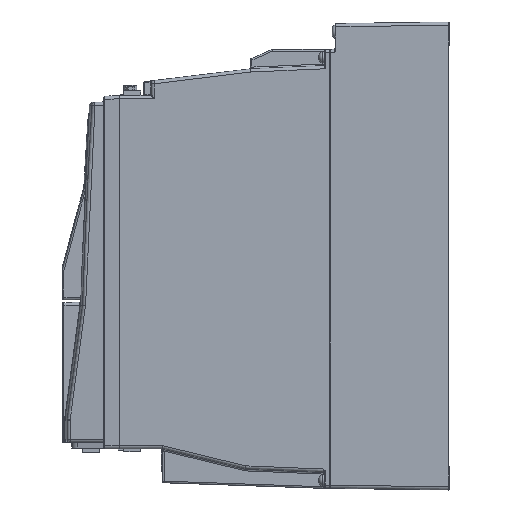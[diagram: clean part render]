
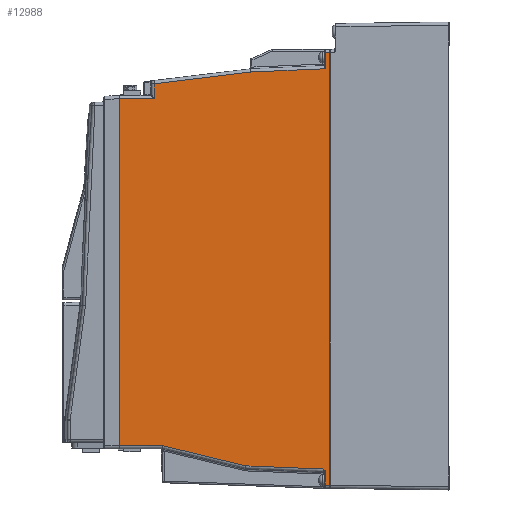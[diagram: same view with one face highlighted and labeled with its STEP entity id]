
A CAD part, left-side view. The second image highlights one B-rep face of the part: STEP entity #12988.
In plain terms, the highlighted planar face has unit normal (-1, 0, 0).
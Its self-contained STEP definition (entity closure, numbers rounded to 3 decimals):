
#5 = VERTEX_POINT ( 'NONE', #34344 ) ;
#339 = CARTESIAN_POINT ( 'NONE',  ( -64., 202.8, -47.5 ) ) ;
#374 = DIRECTION ( 'NONE',  ( 0., 0., -1. ) ) ;
#669 = VECTOR ( 'NONE', #45755, 1000. ) ;
#745 = EDGE_CURVE ( 'NONE', #26420, #10179, #37864, .T. ) ;
#768 = DIRECTION ( 'NONE',  ( 0., 0.999, -0.043 ) ) ;
#1155 = VECTOR ( 'NONE', #44109, 1000. ) ;
#1608 = VERTEX_POINT ( 'NONE', #4157 ) ;
#1969 = LINE ( 'NONE', #34237, #28337 ) ;
#2494 = ORIENTED_EDGE ( 'NONE', *, *, #3130, .T. ) ;
#2581 = CARTESIAN_POINT ( 'NONE',  ( -64., 76.535, -278.634 ) ) ;
#2699 = DIRECTION ( 'NONE',  ( 1., 0., 0. ) ) ;
#3080 = VERTEX_POINT ( 'NONE', #17436 ) ;
#3130 = EDGE_CURVE ( 'NONE', #18874, #16231, #4209, .T. ) ;
#3215 = ORIENTED_EDGE ( 'NONE', *, *, #45455, .T. ) ;
#3267 = VERTEX_POINT ( 'NONE', #38863 ) ;
#4157 = CARTESIAN_POINT ( 'NONE',  ( -64., 177.407, -262.5 ) ) ;
#4209 = LINE ( 'NONE', #339, #31485 ) ;
#4849 = CARTESIAN_POINT ( 'NONE',  ( -64., 73.67, -19. ) ) ;
#5393 = CARTESIAN_POINT ( 'NONE',  ( -64., 202.8, -287. ) ) ;
#5413 = CARTESIAN_POINT ( 'NONE',  ( -64., 76.5, -289. ) ) ;
#5927 = VECTOR ( 'NONE', #44477, 1000. ) ;
#6771 = VECTOR ( 'NONE', #27061, 1000. ) ;
#7359 = LINE ( 'NONE', #25668, #43234 ) ;
#7653 = EDGE_CURVE ( 'NONE', #3267, #18874, #7359, .T. ) ;
#8423 = CARTESIAN_POINT ( 'NONE',  ( -64., 232.631, -44.384 ) ) ;
#8562 = EDGE_CURVE ( 'NONE', #26420, #14372, #27436, .T. ) ;
#9210 = ORIENTED_EDGE ( 'NONE', *, *, #7653, .T. ) ;
#9471 = VECTOR ( 'NONE', #46310, 1000. ) ;
#9803 = CARTESIAN_POINT ( 'NONE',  ( -64., 77.5, -277.013 ) ) ;
#10179 = VERTEX_POINT ( 'NONE', #33652 ) ;
#10485 = CARTESIAN_POINT ( 'NONE',  ( -64., 77.259, -277.308 ) ) ;
#11358 = CARTESIAN_POINT ( 'NONE',  ( -64., 76.92, -277.036 ) ) ;
#11503 = CARTESIAN_POINT ( 'NONE',  ( -64., 182.5, -47.5 ) ) ;
#11601 = VERTEX_POINT ( 'NONE', #40875 ) ;
#11808 = CARTESIAN_POINT ( 'NONE',  ( -64., 76.5, -289. ) ) ;
#12105 = CARTESIAN_POINT ( 'NONE',  ( -64., 204.2, -47.5 ) ) ;
#12988 = ADVANCED_FACE ( 'NONE', ( #46783 ), #39769, .F. ) ;
#13029 = DIRECTION ( 'NONE',  ( 0., 0., 1. ) ) ;
#13098 = EDGE_CURVE ( 'NONE', #3080, #35346, #40475, .T. ) ;
#14015 = CARTESIAN_POINT ( 'NONE',  ( -64., 76.5, -28.98 ) ) ;
#14372 = VERTEX_POINT ( 'NONE', #34897 ) ;
#15875 = EDGE_LOOP ( 'NONE', ( #3215, #39124, #30436, #33002, #20025, #29332, #9210, #2494, #40179, #36631, #28941, #23350, #47214, #29003 ) ) ;
#15988 = LINE ( 'NONE', #5413, #6771 ) ;
#16231 = VERTEX_POINT ( 'NONE', #12105 ) ;
#16556 = VECTOR ( 'NONE', #768, 1000. ) ;
#16909 = LINE ( 'NONE', #20273, #9471 ) ;
#17082 = CARTESIAN_POINT ( 'NONE',  ( -64., 76.5, -287. ) ) ;
#17436 = CARTESIAN_POINT ( 'NONE',  ( -64., 76.5, -279.014 ) ) ;
#17759 = VERTEX_POINT ( 'NONE', #14015 ) ;
#17991 = EDGE_CURVE ( 'NONE', #21087, #16231, #1969, .T. ) ;
#18346 = EDGE_CURVE ( 'NONE', #5, #3267, #33946, .T. ) ;
#18625 = DIRECTION ( 'NONE',  ( 0., 1., 0. ) ) ;
#18874 = VERTEX_POINT ( 'NONE', #11503 ) ;
#19063 = CARTESIAN_POINT ( 'NONE',  ( -64., 213.846, -34.952 ) ) ;
#19286 = CARTESIAN_POINT ( 'NONE',  ( -64., 73.67, -19. ) ) ;
#20025 = ORIENTED_EDGE ( 'NONE', *, *, #32631, .T. ) ;
#20273 = CARTESIAN_POINT ( 'NONE',  ( -64., 202.8, -262.5 ) ) ;
#20946 = VECTOR ( 'NONE', #32226, 1000. ) ;
#21087 = VERTEX_POINT ( 'NONE', #33373 ) ;
#23350 = ORIENTED_EDGE ( 'NONE', *, *, #23530, .T. ) ;
#23530 = EDGE_CURVE ( 'NONE', #26947, #11601, #46811, .T. ) ;
#24371 = DIRECTION ( 'NONE',  ( 0., 0., -1. ) ) ;
#24496 = CARTESIAN_POINT ( 'NONE',  ( -64., 125.725, -275.044 ) ) ;
#24846 = CARTESIAN_POINT ( 'NONE',  ( -64., 202.8, -289. ) ) ;
#25668 = CARTESIAN_POINT ( 'NONE',  ( -64., 182.5, -289. ) ) ;
#25778 = EDGE_CURVE ( 'NONE', #11601, #3080, #41096, .T. ) ;
#26197 = EDGE_CURVE ( 'NONE', #21087, #1608, #16909, .T. ) ;
#26211 = DIRECTION ( 'NONE',  ( 0., -0.972, -0.236 ) ) ;
#26420 = VERTEX_POINT ( 'NONE', #4849 ) ;
#26947 = VERTEX_POINT ( 'NONE', #24496 ) ;
#27061 = DIRECTION ( 'NONE',  ( 0., 0., -1. ) ) ;
#27436 = LINE ( 'NONE', #27675, #20946 ) ;
#27675 = CARTESIAN_POINT ( 'NONE',  ( -64., 202.8, -19. ) ) ;
#27873 = CARTESIAN_POINT ( 'NONE',  ( -64., 76.5, -278.822 ) ) ;
#28337 = VECTOR ( 'NONE', #13029, 1000. ) ;
#28941 = ORIENTED_EDGE ( 'NONE', *, *, #36445, .T. ) ;
#29003 = ORIENTED_EDGE ( 'NONE', *, *, #13098, .T. ) ;
#29332 = ORIENTED_EDGE ( 'NONE', *, *, #18346, .T. ) ;
#30436 = ORIENTED_EDGE ( 'NONE', *, *, #8562, .T. ) ;
#31154 = AXIS2_PLACEMENT_3D ( 'NONE', #24846, #2699, #24371 ) ;
#31319 = DIRECTION ( 'NONE',  ( 0., 0., -1. ) ) ;
#31482 = CARTESIAN_POINT ( 'NONE',  ( -64., 76.652, -278.27 ) ) ;
#31485 = VECTOR ( 'NONE', #18625, 1000. ) ;
#31948 = CARTESIAN_POINT ( 'NONE',  ( -64., 76.733, -278.099 ) ) ;
#32226 = DIRECTION ( 'NONE',  ( 0., 1., 0. ) ) ;
#32579 = DIRECTION ( 'NONE',  ( 0., -0.999, -0.041 ) ) ;
#32631 = EDGE_CURVE ( 'NONE', #17759, #5, #40509, .T. ) ;
#33002 = ORIENTED_EDGE ( 'NONE', *, *, #38692, .T. ) ;
#33373 = CARTESIAN_POINT ( 'NONE',  ( -64., 204.2, -262.5 ) ) ;
#33652 = CARTESIAN_POINT ( 'NONE',  ( -64., 73.67, -287. ) ) ;
#33946 = LINE ( 'NONE', #8423, #669 ) ;
#34237 = CARTESIAN_POINT ( 'NONE',  ( -64., 204.2, -262.5 ) ) ;
#34344 = CARTESIAN_POINT ( 'NONE',  ( -64., 122.835, -30.995 ) ) ;
#34897 = CARTESIAN_POINT ( 'NONE',  ( -64., 76.5, -19. ) ) ;
#35220 = VECTOR ( 'NONE', #31319, 1000. ) ;
#35346 = VERTEX_POINT ( 'NONE', #17082 ) ;
#35349 = CARTESIAN_POINT ( 'NONE',  ( -64., 76.5, -279.014 ) ) ;
#36445 = EDGE_CURVE ( 'NONE', #1608, #26947, #40669, .T. ) ;
#36631 = ORIENTED_EDGE ( 'NONE', *, *, #26197, .T. ) ;
#37864 = LINE ( 'NONE', #19286, #35220 ) ;
#38692 = EDGE_CURVE ( 'NONE', #14372, #17759, #15988, .T. ) ;
#38720 = VECTOR ( 'NONE', #32579, 1000. ) ;
#38863 = CARTESIAN_POINT ( 'NONE',  ( -64., 182.5, -38.271 ) ) ;
#39124 = ORIENTED_EDGE ( 'NONE', *, *, #745, .F. ) ;
#39769 = PLANE ( 'NONE',  #31154 ) ;
#40179 = ORIENTED_EDGE ( 'NONE', *, *, #17991, .F. ) ;
#40475 = LINE ( 'NONE', #11808, #1155 ) ;
#40509 = LINE ( 'NONE', #19063, #16556 ) ;
#40669 = LINE ( 'NONE', #44057, #44368 ) ;
#40875 = CARTESIAN_POINT ( 'NONE',  ( -64., 77.5, -277.013 ) ) ;
#41096 = B_SPLINE_CURVE_WITH_KNOTS ( 'NONE', 3,
 ( #9803, #10485, #43502, #31948, #31482, #2581, #27873, #35349 ),
 .UNSPECIFIED., .F., .F.,
 ( 4, 2, 2, 4 ),
 ( 0., 0.001, 0.002, 0.002 ),
 .UNSPECIFIED. ) ;
#43234 = VECTOR ( 'NONE', #374, 1000. ) ;
#43502 = CARTESIAN_POINT ( 'NONE',  ( -64., 77.016, -277.606 ) ) ;
#44057 = CARTESIAN_POINT ( 'NONE',  ( -64., 125.536, -275.09 ) ) ;
#44109 = DIRECTION ( 'NONE',  ( 0., 0., -1. ) ) ;
#44368 = VECTOR ( 'NONE', #26211, 1000. ) ;
#44477 = DIRECTION ( 'NONE',  ( 0., -1., 0. ) ) ;
#45455 = EDGE_CURVE ( 'NONE', #35346, #10179, #45858, .T. ) ;
#45755 = DIRECTION ( 'NONE',  ( 0., 0.993, -0.121 ) ) ;
#45858 = LINE ( 'NONE', #5393, #5927 ) ;
#46310 = DIRECTION ( 'NONE',  ( 0., -1., 0. ) ) ;
#46783 = FACE_OUTER_BOUND ( 'NONE', #15875, .T. ) ;
#46811 = LINE ( 'NONE', #11358, #38720 ) ;
#47214 = ORIENTED_EDGE ( 'NONE', *, *, #25778, .T. ) ;
